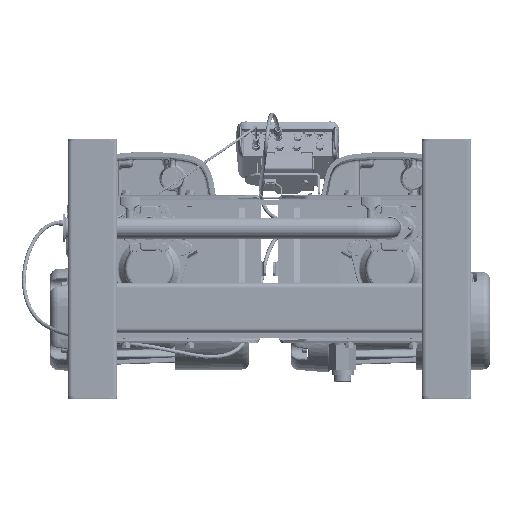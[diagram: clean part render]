
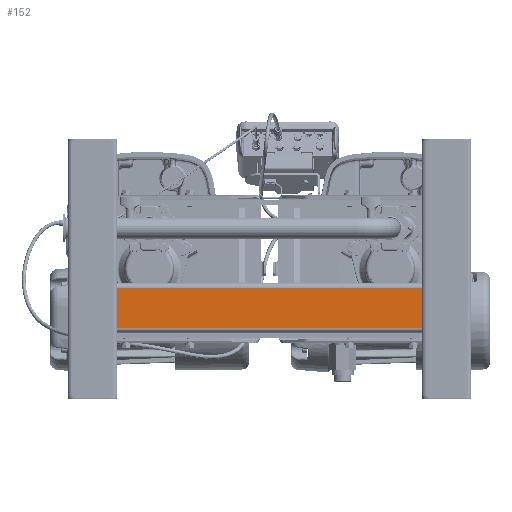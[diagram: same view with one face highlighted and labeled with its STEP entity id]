
A CAD part, front view. The second image highlights one B-rep face of the part: STEP entity #152.
In plain terms, the highlighted planar face has unit normal (0, -1, 0).
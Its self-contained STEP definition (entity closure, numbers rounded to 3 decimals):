
#1=DIRECTION('',(0.,0.,-1.));
#2=VECTOR('',#1,2.875);
#3=CARTESIAN_POINT('',(21.5,-3.5,3.188));
#4=LINE('',#3,#2);
#5=DIRECTION('',(-1.,0.,0.));
#6=VECTOR('',#5,21.5);
#7=CARTESIAN_POINT('',(21.5,-3.5,0.313));
#8=LINE('',#7,#6);
#9=DIRECTION('',(0.,0.,1.));
#10=VECTOR('',#9,2.875);
#11=CARTESIAN_POINT('',(0.,-3.5,0.313));
#12=LINE('',#11,#10);
#96=DIRECTION('',(-1.,0.,0.));
#97=VECTOR('',#96,21.5);
#98=CARTESIAN_POINT('',(21.5,-3.5,3.188));
#99=LINE('',#98,#97);
#105=CARTESIAN_POINT('',(21.5,-3.5,0.313));
#106=CARTESIAN_POINT('',(21.5,-3.5,3.188));
#107=VERTEX_POINT('',#105);
#108=VERTEX_POINT('',#106);
#121=CARTESIAN_POINT('',(0.,-3.5,0.313));
#122=CARTESIAN_POINT('',(0.,-3.5,3.188));
#123=VERTEX_POINT('',#121);
#124=VERTEX_POINT('',#122);
#137=CARTESIAN_POINT('',(21.5,-3.5,0.313));
#138=DIRECTION('',(0.,-1.,0.));
#139=DIRECTION('',(0.,0.,1.));
#140=AXIS2_PLACEMENT_3D('',#137,#138,#139);
#141=PLANE('',#140);
#143=ORIENTED_EDGE('',*,*,#142,.T.);
#145=ORIENTED_EDGE('',*,*,#144,.T.);
#147=ORIENTED_EDGE('',*,*,#146,.T.);
#149=ORIENTED_EDGE('',*,*,#148,.F.);
#150=EDGE_LOOP('',(#143,#145,#147,#149));
#151=FACE_OUTER_BOUND('',#150,.F.);
#152=ADVANCED_FACE('',(#151),#141,.T.);
#142=EDGE_CURVE('',#108,#107,#4,.T.);
#144=EDGE_CURVE('',#107,#123,#8,.T.);
#146=EDGE_CURVE('',#123,#124,#12,.T.);
#148=EDGE_CURVE('',#108,#124,#99,.T.);
